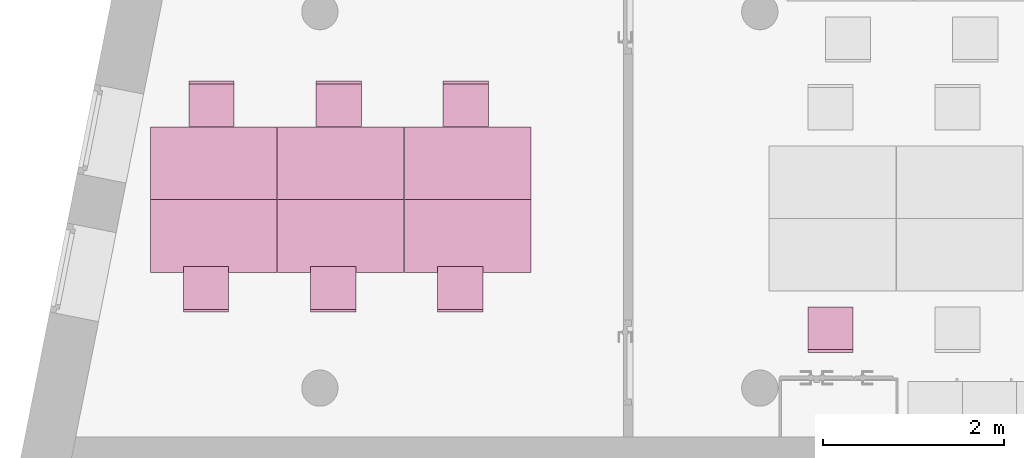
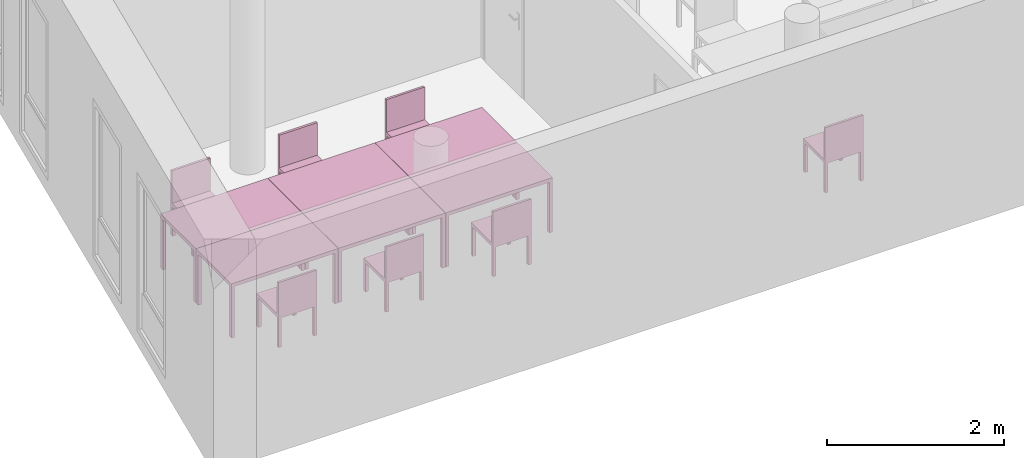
"""IFC4 building model written with IfcOpenShell, lengths in metres."""

from ifc_helpers import new_model, entity, si_unit, converted_unit, derived_unit, frame, origin, place, context, subcontext, project, spatial, faceted_brep, element, save


model = new_model("IFC4")

# Units and contexts
model_context = context("Model", 3, precision=1e-05, world=origin())
body_context = subcontext(model_context, "Body", "Model", "MODEL_VIEW")
ifc_project = project(units=[si_unit("LENGTHUNIT", "METRE"), si_unit("AREAUNIT", "SQUARE_METRE"), si_unit("VOLUMEUNIT", "CUBIC_METRE"), si_unit("MASSUNIT", "GRAM", prefix="KILO"), converted_unit("PLANEANGLEUNIT", "DEGREE", entity("IfcPlaneAngleMeasure", 0.0174532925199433), si_unit("PLANEANGLEUNIT", "RADIAN"), dimensions=[0, 0, 0, 0, 0, 0, 0]), derived_unit("THERMALTRANSMITTANCEUNIT", [(si_unit("POWERUNIT", "WATT"), 1), (si_unit("THERMODYNAMICTEMPERATUREUNIT", "KELVIN"), -1), (si_unit("LENGTHUNIT", "METRE"), -2)]), derived_unit("VOLUMETRICFLOWRATEUNIT", [(si_unit("LENGTHUNIT", "METRE"), 3), (converted_unit("TIMEUNIT", "hour", entity("IfcTimeMeasure", 3600.0), si_unit("TIMEUNIT", "SECOND"), dimensions=[0, 0, 1, 0, 0, 0, 0]), -1), (si_unit("LENGTHUNIT", "METRE"), -1)])], contexts=[model_context])

# Building, storeys
building_placement = place(None, origin())
building = spatial("IfcBuilding", under=ifc_project, at=building_placement, Name="HABITATGE PLURIFAMILIAR", CompositionType="ELEMENT")
storey_1_placement = place(building_placement, frame((0.0, 0.0, 18.29)))
storey_1 = spatial("IfcBuildingStorey", under=building, at=storey_1_placement, Name="PLANTA CINQUENA", CompositionType="ELEMENT", Elevation=18.29)
storey_2_placement = place(storey_1_placement, frame((0.0, 0.0, 15.28)))
storey_2 = spatial("IfcBuildingStorey", under=storey_1, at=storey_2_placement, Name="NOU", CompositionType="PARTIAL")

# Furniture
furniture_1_placement = place(storey_2_placement, frame((406.36586566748, 14.0425643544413, -15.2746385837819)))
element("IfcFurniture", 1, at=furniture_1_placement, inside=storey_2, Name="Cadira d'Oficina_P5", context=body_context, shape_type="Brep", body=[
    faceted_brep([(0.0, 0.500000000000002, 0.4), (0.0, 0.0, 0.4), (0.5, 0.0, 0.4), (0.5, 0.499999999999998, 0.4), (0.0, 0.0, 0.45), (0.0, 0.500000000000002, 0.45), (0.5, 0.499999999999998, 0.45), (0.5, 0.0, 0.45)], [[[0, 1, 2, 3]], [[4, 5, 6, 7]], [[1, 0, 5, 4]], [[2, 1, 4, 7]], [[3, 2, 7, 6]], [[0, 3, 6, 5]]], orient=[[False], [False], [False], [False], [False], [False]]),
    faceted_brep([(0.5, 0.04, 0.0), (0.46, 0.04, 0.0), (0.46, 0.0, 0.0), (0.5, 0.0, 0.0), (0.46, 0.04, 0.4), (0.5, 0.04, 0.4), (0.5, 0.0, 0.4), (0.46, 0.0, 0.4)], [[[0, 1, 2, 3]], [[4, 5, 6, 7]], [[1, 0, 5, 4]], [[2, 1, 4, 7]], [[3, 2, 7, 6]], [[0, 3, 6, 5]]], orient=[[False], [False], [False], [False], [False], [False]]),
    faceted_brep([(0.5, 0.499999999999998, 0.0), (0.46, 0.5, 0.0), (0.46, 0.46, 0.0), (0.5, 0.459999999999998, 0.0), (0.46, 0.5, 0.4), (0.5, 0.499999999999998, 0.4), (0.5, 0.459999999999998, 0.4), (0.46, 0.46, 0.4)], [[[0, 1, 2, 3]], [[4, 5, 6, 7]], [[1, 0, 5, 4]], [[2, 1, 4, 7]], [[3, 2, 7, 6]], [[0, 3, 6, 5]]], orient=[[False], [False], [False], [False], [False], [False]]),
    faceted_brep([(0.04, 0.04, 0.0), (0.0, 0.0400000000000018, 0.0), (0.0, 0.0, 0.0), (0.04, 0.0, 0.0), (0.0, 0.0400000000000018, 0.4), (0.04, 0.04, 0.4), (0.04, 0.0, 0.4), (0.0, 0.0, 0.4)], [[[0, 1, 2, 3]], [[4, 5, 6, 7]], [[1, 0, 5, 4]], [[2, 1, 4, 7]], [[3, 2, 7, 6]], [[0, 3, 6, 5]]], orient=[[False], [False], [False], [False], [False], [False]]),
    faceted_brep([(0.04, 0.5, 0.0), (0.0, 0.500000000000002, 0.0), (0.0, 0.460000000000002, 0.0), (0.04, 0.46, 0.0), (0.0, 0.500000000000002, 0.4), (0.04, 0.5, 0.4), (0.04, 0.46, 0.4), (0.0, 0.460000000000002, 0.4)], [[[0, 1, 2, 3]], [[4, 5, 6, 7]], [[1, 0, 5, 4]], [[2, 1, 4, 7]], [[3, 2, 7, 6]], [[0, 3, 6, 5]]], orient=[[False], [False], [False], [False], [False], [False]]),
    faceted_brep([(0.5, 0.03, 0.45), (0.0, 0.0300000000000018, 0.45), (0.0, 0.0, 0.45), (0.5, 0.0, 0.45), (0.0, 0.0300000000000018, 0.9), (0.5, 0.03, 0.9), (0.5, 0.0, 0.9), (0.0, 0.0, 0.9)], [[[0, 1, 2, 3]], [[4, 5, 6, 7]], [[1, 0, 5, 4]], [[2, 1, 4, 7]], [[3, 2, 7, 6]], [[0, 3, 6, 5]]], orient=[[False], [False], [False], [False], [False], [False]]),
])
furniture_2_placement = place(storey_2_placement, frame((400.518458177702, 15.7268221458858, -15.28)))
element("IfcFurniture", 2, at=furniture_2_placement, inside=storey_2, Name="Taula 140X80_P5", context=body_context, shape_type="Brep", body=[
    faceted_brep([(0.04375, 0.05, 0.0), (0.0, 0.05, 0.0), (0.0, 0.0, 0.0), (0.04375, 0.0, 0.0), (0.04375, 0.0, 0.7), (0.0, 0.0, 0.7), (0.0, 0.05, 0.7), (0.04375, 0.05, 0.7)], [[[0, 1, 2, 3]], [[4, 5, 6, 7]], [[3, 4, 7, 0]], [[2, 5, 4, 3]], [[1, 6, 5, 2]], [[0, 7, 6, 1]]], orient=[[False], [False], [False], [False], [False], [False]]),
    faceted_brep([(0.04375, 0.800069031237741, 0.0), (0.0, 0.800069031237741, 0.0), (0.0, 0.750069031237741, 0.0), (0.04375, 0.750069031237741, 0.0), (0.04375, 0.750069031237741, 0.7), (0.0, 0.750069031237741, 0.7), (0.0, 0.800069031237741, 0.7), (0.04375, 0.800069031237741, 0.7)], [[[0, 1, 2, 3]], [[4, 5, 6, 7]], [[3, 4, 7, 0]], [[2, 5, 4, 3]], [[1, 6, 5, 2]], [[0, 7, 6, 1]]], orient=[[False], [False], [False], [False], [False], [False]]),
    faceted_brep([(1.39732768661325, 0.800069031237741, 0.7), (0.0, 0.800069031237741, 0.7), (0.0, 0.0, 0.7), (1.39732768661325, 0.0, 0.7), (1.39732768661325, 0.0, 0.75), (0.0, 0.0, 0.75), (0.0, 0.800069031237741, 0.75), (1.39732768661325, 0.800069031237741, 0.75)], [[[0, 1, 2, 3]], [[4, 5, 6, 7]], [[3, 4, 7, 0]], [[2, 5, 4, 3]], [[1, 6, 5, 2]], [[0, 7, 6, 1]]], orient=[[False], [False], [False], [False], [False], [False]]),
    faceted_brep([(1.39732768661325, 0.05, 0.0), (1.35357768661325, 0.05, 0.0), (1.35357768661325, 0.0, 0.0), (1.39732768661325, 0.0, 0.0), (1.39732768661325, 0.0, 0.7), (1.35357768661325, 0.0, 0.7), (1.35357768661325, 0.05, 0.7), (1.39732768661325, 0.05, 0.7)], [[[0, 1, 2, 3]], [[4, 5, 6, 7]], [[3, 4, 7, 0]], [[2, 5, 4, 3]], [[1, 6, 5, 2]], [[0, 7, 6, 1]]], orient=[[False], [False], [False], [False], [False], [False]]),
    faceted_brep([(1.39732768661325, 0.800069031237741, 0.0), (1.35357768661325, 0.800069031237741, 0.0), (1.35357768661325, 0.750069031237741, 0.0), (1.39732768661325, 0.750069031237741, 0.0), (1.39732768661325, 0.750069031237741, 0.7), (1.35357768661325, 0.750069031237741, 0.7), (1.35357768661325, 0.800069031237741, 0.7), (1.39732768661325, 0.800069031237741, 0.7)], [[[0, 1, 2, 3]], [[4, 5, 6, 7]], [[3, 4, 7, 0]], [[2, 5, 4, 3]], [[1, 6, 5, 2]], [[0, 7, 6, 1]]], orient=[[False], [False], [False], [False], [False], [False]]),
])
furniture_3_placement = place(storey_2_placement, frame((399.117279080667, 15.7268221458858, -15.28)))
element("IfcFurniture", 3, at=furniture_3_placement, inside=storey_2, Name="Taula 140X80_P5", context=body_context, shape_type="Brep", body=[
    faceted_brep([(0.04375, 0.05, 0.0), (0.0, 0.05, 0.0), (0.0, 0.0, 0.0), (0.04375, 0.0, 0.0), (0.04375, 0.0, 0.7), (0.0, 0.0, 0.7), (0.0, 0.05, 0.7), (0.04375, 0.05, 0.7)], [[[0, 1, 2, 3]], [[4, 5, 6, 7]], [[3, 4, 7, 0]], [[2, 5, 4, 3]], [[1, 6, 5, 2]], [[0, 7, 6, 1]]], orient=[[False], [False], [False], [False], [False], [False]]),
    faceted_brep([(0.04375, 0.800069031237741, 0.0), (0.0, 0.800069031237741, 0.0), (0.0, 0.750069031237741, 0.0), (0.04375, 0.750069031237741, 0.0), (0.04375, 0.750069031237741, 0.7), (0.0, 0.750069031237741, 0.7), (0.0, 0.800069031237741, 0.7), (0.04375, 0.800069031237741, 0.7)], [[[0, 1, 2, 3]], [[4, 5, 6, 7]], [[3, 4, 7, 0]], [[2, 5, 4, 3]], [[1, 6, 5, 2]], [[0, 7, 6, 1]]], orient=[[False], [False], [False], [False], [False], [False]]),
    faceted_brep([(1.39732768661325, 0.800069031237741, 0.7), (0.0, 0.800069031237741, 0.7), (0.0, 0.0, 0.7), (1.39732768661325, 0.0, 0.7), (1.39732768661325, 0.0, 0.75), (0.0, 0.0, 0.75), (0.0, 0.800069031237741, 0.75), (1.39732768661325, 0.800069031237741, 0.75)], [[[0, 1, 2, 3]], [[4, 5, 6, 7]], [[3, 4, 7, 0]], [[2, 5, 4, 3]], [[1, 6, 5, 2]], [[0, 7, 6, 1]]], orient=[[False], [False], [False], [False], [False], [False]]),
    faceted_brep([(1.39732768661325, 0.05, 0.0), (1.35357768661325, 0.05, 0.0), (1.35357768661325, 0.0, 0.0), (1.39732768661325, 0.0, 0.0), (1.39732768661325, 0.0, 0.7), (1.35357768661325, 0.0, 0.7), (1.35357768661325, 0.05, 0.7), (1.39732768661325, 0.05, 0.7)], [[[0, 1, 2, 3]], [[4, 5, 6, 7]], [[3, 4, 7, 0]], [[2, 5, 4, 3]], [[1, 6, 5, 2]], [[0, 7, 6, 1]]], orient=[[False], [False], [False], [False], [False], [False]]),
    faceted_brep([(1.39732768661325, 0.800069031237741, 0.0), (1.35357768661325, 0.800069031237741, 0.0), (1.35357768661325, 0.750069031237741, 0.0), (1.39732768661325, 0.750069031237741, 0.0), (1.39732768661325, 0.750069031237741, 0.7), (1.35357768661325, 0.750069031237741, 0.7), (1.35357768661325, 0.800069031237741, 0.7), (1.39732768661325, 0.800069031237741, 0.7)], [[[0, 1, 2, 3]], [[4, 5, 6, 7]], [[3, 4, 7, 0]], [[2, 5, 4, 3]], [[1, 6, 5, 2]], [[0, 7, 6, 1]]], orient=[[False], [False], [False], [False], [False], [False]]),
])
furniture_4_placement = place(storey_2_placement, frame((400.518458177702, 14.9267531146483, -15.28)))
element("IfcFurniture", 4, at=furniture_4_placement, inside=storey_2, Name="Taula 140X80_P5", context=body_context, shape_type="Brep", body=[
    faceted_brep([(0.04375, 0.750069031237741, 0.0), (0.04375, 0.800069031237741, 0.0), (0.0, 0.800069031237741, 0.0), (0.0, 0.750069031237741, 0.0), (0.04375, 0.800069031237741, 0.7), (0.04375, 0.750069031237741, 0.7), (0.0, 0.750069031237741, 0.7), (0.0, 0.800069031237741, 0.7)], [[[0, 1, 2, 3]], [[4, 5, 6, 7]], [[1, 0, 5, 4]], [[2, 1, 4, 7]], [[3, 2, 7, 6]], [[0, 3, 6, 5]]], orient=[[False], [False], [False], [False], [False], [False]]),
    faceted_brep([(0.04375, 0.0, 0.0), (0.04375, 0.05, 0.0), (0.0, 0.05, 0.0), (0.0, 0.0, 0.0), (0.04375, 0.05, 0.7), (0.04375, 0.0, 0.7), (0.0, 0.0, 0.7), (0.0, 0.05, 0.7)], [[[0, 1, 2, 3]], [[4, 5, 6, 7]], [[1, 0, 5, 4]], [[2, 1, 4, 7]], [[3, 2, 7, 6]], [[0, 3, 6, 5]]], orient=[[False], [False], [False], [False], [False], [False]]),
    faceted_brep([(1.39732768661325, 0.0, 0.7), (1.39732768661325, 0.800069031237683, 0.7), (0.0, 0.800069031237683, 0.7), (0.0, 0.0, 0.7), (1.39732768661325, 0.800069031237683, 0.75), (1.39732768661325, 0.0, 0.75), (0.0, 0.0, 0.75), (0.0, 0.800069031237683, 0.75)], [[[0, 1, 2, 3]], [[4, 5, 6, 7]], [[1, 0, 5, 4]], [[2, 1, 4, 7]], [[3, 2, 7, 6]], [[0, 3, 6, 5]]], orient=[[False], [False], [False], [False], [False], [False]]),
    faceted_brep([(1.39732768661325, 0.750069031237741, 0.0), (1.39732768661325, 0.800069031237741, 0.0), (1.35357768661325, 0.800069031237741, 0.0), (1.35357768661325, 0.750069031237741, 0.0), (1.39732768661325, 0.800069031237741, 0.7), (1.39732768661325, 0.750069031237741, 0.7), (1.35357768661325, 0.750069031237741, 0.7), (1.35357768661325, 0.800069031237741, 0.7)], [[[0, 1, 2, 3]], [[4, 5, 6, 7]], [[1, 0, 5, 4]], [[2, 1, 4, 7]], [[3, 2, 7, 6]], [[0, 3, 6, 5]]], orient=[[False], [False], [False], [False], [False], [False]]),
    faceted_brep([(1.39732768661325, 0.0, 0.0), (1.39732768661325, 0.05, 0.0), (1.35357768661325, 0.05, 0.0), (1.35357768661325, 0.0, 0.0), (1.39732768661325, 0.05, 0.7), (1.39732768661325, 0.0, 0.7), (1.35357768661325, 0.0, 0.7), (1.35357768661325, 0.05, 0.7)], [[[0, 1, 2, 3]], [[4, 5, 6, 7]], [[1, 0, 5, 4]], [[2, 1, 4, 7]], [[3, 2, 7, 6]], [[0, 3, 6, 5]]], orient=[[False], [False], [False], [False], [False], [False]]),
])
furniture_5_placement = place(storey_2_placement, frame((399.117279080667, 14.9267531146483, -15.28)))
element("IfcFurniture", 5, at=furniture_5_placement, inside=storey_2, Name="Taula 140X80_P5", context=body_context, shape_type="Brep", body=[
    faceted_brep([(0.04375, 0.750069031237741, 0.0), (0.04375, 0.800069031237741, 0.0), (0.0, 0.800069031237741, 0.0), (0.0, 0.750069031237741, 0.0), (0.04375, 0.800069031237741, 0.7), (0.04375, 0.750069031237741, 0.7), (0.0, 0.750069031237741, 0.7), (0.0, 0.800069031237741, 0.7)], [[[0, 1, 2, 3]], [[4, 5, 6, 7]], [[1, 0, 5, 4]], [[2, 1, 4, 7]], [[3, 2, 7, 6]], [[0, 3, 6, 5]]], orient=[[False], [False], [False], [False], [False], [False]]),
    faceted_brep([(0.04375, 0.0, 0.0), (0.04375, 0.05, 0.0), (0.0, 0.05, 0.0), (0.0, 0.0, 0.0), (0.04375, 0.05, 0.7), (0.04375, 0.0, 0.7), (0.0, 0.0, 0.7), (0.0, 0.05, 0.7)], [[[0, 1, 2, 3]], [[4, 5, 6, 7]], [[1, 0, 5, 4]], [[2, 1, 4, 7]], [[3, 2, 7, 6]], [[0, 3, 6, 5]]], orient=[[False], [False], [False], [False], [False], [False]]),
    faceted_brep([(1.39732768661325, 0.0, 0.7), (1.39732768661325, 0.800069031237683, 0.7), (0.0, 0.800069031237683, 0.7), (0.0, 0.0, 0.7), (1.39732768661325, 0.800069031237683, 0.75), (1.39732768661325, 0.0, 0.75), (0.0, 0.0, 0.75), (0.0, 0.800069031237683, 0.75)], [[[0, 1, 2, 3]], [[4, 5, 6, 7]], [[1, 0, 5, 4]], [[2, 1, 4, 7]], [[3, 2, 7, 6]], [[0, 3, 6, 5]]], orient=[[False], [False], [False], [False], [False], [False]]),
    faceted_brep([(1.39732768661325, 0.750069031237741, 0.0), (1.39732768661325, 0.800069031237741, 0.0), (1.35357768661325, 0.800069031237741, 0.0), (1.35357768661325, 0.750069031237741, 0.0), (1.39732768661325, 0.800069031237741, 0.7), (1.39732768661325, 0.750069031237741, 0.7), (1.35357768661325, 0.750069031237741, 0.7), (1.35357768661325, 0.800069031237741, 0.7)], [[[0, 1, 2, 3]], [[4, 5, 6, 7]], [[1, 0, 5, 4]], [[2, 1, 4, 7]], [[3, 2, 7, 6]], [[0, 3, 6, 5]]], orient=[[False], [False], [False], [False], [False], [False]]),
    faceted_brep([(1.39732768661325, 0.0, 0.0), (1.39732768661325, 0.05, 0.0), (1.35357768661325, 0.05, 0.0), (1.35357768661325, 0.0, 0.0), (1.39732768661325, 0.05, 0.7), (1.39732768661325, 0.0, 0.7), (1.35357768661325, 0.0, 0.7), (1.35357768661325, 0.05, 0.7)], [[[0, 1, 2, 3]], [[4, 5, 6, 7]], [[1, 0, 5, 4]], [[2, 1, 4, 7]], [[3, 2, 7, 6]], [[0, 3, 6, 5]]], orient=[[False], [False], [False], [False], [False], [False]]),
])
furniture_6_placement = place(storey_2_placement, frame((400.883027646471, 14.4885941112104, -15.2746385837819)))
element("IfcFurniture", 6, at=furniture_6_placement, inside=storey_2, Name="Cadira d'Oficina_P5", context=body_context, shape_type="Brep", body=[
    faceted_brep([(0.0, 0.500000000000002, 0.4), (0.0, 0.0, 0.4), (0.5, 0.0, 0.4), (0.5, 0.499999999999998, 0.4), (0.0, 0.0, 0.45), (0.0, 0.500000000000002, 0.45), (0.5, 0.499999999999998, 0.45), (0.5, 0.0, 0.45)], [[[0, 1, 2, 3]], [[4, 5, 6, 7]], [[1, 0, 5, 4]], [[2, 1, 4, 7]], [[3, 2, 7, 6]], [[0, 3, 6, 5]]], orient=[[False], [False], [False], [False], [False], [False]]),
    faceted_brep([(0.5, 0.04, 0.0), (0.46, 0.04, 0.0), (0.46, 0.0, 0.0), (0.5, 0.0, 0.0), (0.46, 0.04, 0.4), (0.5, 0.04, 0.4), (0.5, 0.0, 0.4), (0.46, 0.0, 0.4)], [[[0, 1, 2, 3]], [[4, 5, 6, 7]], [[1, 0, 5, 4]], [[2, 1, 4, 7]], [[3, 2, 7, 6]], [[0, 3, 6, 5]]], orient=[[False], [False], [False], [False], [False], [False]]),
    faceted_brep([(0.5, 0.499999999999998, 0.0), (0.46, 0.5, 0.0), (0.46, 0.46, 0.0), (0.5, 0.459999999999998, 0.0), (0.46, 0.5, 0.4), (0.5, 0.499999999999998, 0.4), (0.5, 0.459999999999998, 0.4), (0.46, 0.46, 0.4)], [[[0, 1, 2, 3]], [[4, 5, 6, 7]], [[1, 0, 5, 4]], [[2, 1, 4, 7]], [[3, 2, 7, 6]], [[0, 3, 6, 5]]], orient=[[False], [False], [False], [False], [False], [False]]),
    faceted_brep([(0.04, 0.04, 0.0), (0.0, 0.0400000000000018, 0.0), (0.0, 0.0, 0.0), (0.04, 0.0, 0.0), (0.0, 0.0400000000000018, 0.4), (0.04, 0.04, 0.4), (0.04, 0.0, 0.4), (0.0, 0.0, 0.4)], [[[0, 1, 2, 3]], [[4, 5, 6, 7]], [[1, 0, 5, 4]], [[2, 1, 4, 7]], [[3, 2, 7, 6]], [[0, 3, 6, 5]]], orient=[[False], [False], [False], [False], [False], [False]]),
    faceted_brep([(0.04, 0.5, 0.0), (0.0, 0.500000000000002, 0.0), (0.0, 0.460000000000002, 0.0), (0.04, 0.46, 0.0), (0.0, 0.500000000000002, 0.4), (0.04, 0.5, 0.4), (0.04, 0.46, 0.4), (0.0, 0.460000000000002, 0.4)], [[[0, 1, 2, 3]], [[4, 5, 6, 7]], [[1, 0, 5, 4]], [[2, 1, 4, 7]], [[3, 2, 7, 6]], [[0, 3, 6, 5]]], orient=[[False], [False], [False], [False], [False], [False]]),
    faceted_brep([(0.5, 0.03, 0.45), (0.0, 0.0300000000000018, 0.45), (0.0, 0.0, 0.45), (0.5, 0.0, 0.45), (0.0, 0.0300000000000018, 0.9), (0.5, 0.03, 0.9), (0.5, 0.0, 0.9), (0.0, 0.0, 0.9)], [[[0, 1, 2, 3]], [[4, 5, 6, 7]], [[1, 0, 5, 4]], [[2, 1, 4, 7]], [[3, 2, 7, 6]], [[0, 3, 6, 5]]], orient=[[False], [False], [False], [False], [False], [False]]),
])
furniture_7_placement = place(storey_2_placement, frame((399.481848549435, 14.4885941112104, -15.2746385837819)))
element("IfcFurniture", 7, at=furniture_7_placement, inside=storey_2, Name="Cadira d'Oficina_P5", context=body_context, shape_type="Brep", body=[
    faceted_brep([(0.0, 0.500000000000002, 0.4), (0.0, 0.0, 0.4), (0.5, 0.0, 0.4), (0.5, 0.499999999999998, 0.4), (0.0, 0.0, 0.45), (0.0, 0.500000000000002, 0.45), (0.5, 0.499999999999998, 0.45), (0.5, 0.0, 0.45)], [[[0, 1, 2, 3]], [[4, 5, 6, 7]], [[1, 0, 5, 4]], [[2, 1, 4, 7]], [[3, 2, 7, 6]], [[0, 3, 6, 5]]], orient=[[False], [False], [False], [False], [False], [False]]),
    faceted_brep([(0.5, 0.04, 0.0), (0.46, 0.04, 0.0), (0.46, 0.0, 0.0), (0.5, 0.0, 0.0), (0.46, 0.04, 0.4), (0.5, 0.04, 0.4), (0.5, 0.0, 0.4), (0.46, 0.0, 0.4)], [[[0, 1, 2, 3]], [[4, 5, 6, 7]], [[1, 0, 5, 4]], [[2, 1, 4, 7]], [[3, 2, 7, 6]], [[0, 3, 6, 5]]], orient=[[False], [False], [False], [False], [False], [False]]),
    faceted_brep([(0.5, 0.499999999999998, 0.0), (0.46, 0.5, 0.0), (0.46, 0.46, 0.0), (0.5, 0.459999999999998, 0.0), (0.46, 0.5, 0.4), (0.5, 0.499999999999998, 0.4), (0.5, 0.459999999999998, 0.4), (0.46, 0.46, 0.4)], [[[0, 1, 2, 3]], [[4, 5, 6, 7]], [[1, 0, 5, 4]], [[2, 1, 4, 7]], [[3, 2, 7, 6]], [[0, 3, 6, 5]]], orient=[[False], [False], [False], [False], [False], [False]]),
    faceted_brep([(0.04, 0.04, 0.0), (0.0, 0.0400000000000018, 0.0), (0.0, 0.0, 0.0), (0.04, 0.0, 0.0), (0.0, 0.0400000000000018, 0.4), (0.04, 0.04, 0.4), (0.04, 0.0, 0.4), (0.0, 0.0, 0.4)], [[[0, 1, 2, 3]], [[4, 5, 6, 7]], [[1, 0, 5, 4]], [[2, 1, 4, 7]], [[3, 2, 7, 6]], [[0, 3, 6, 5]]], orient=[[False], [False], [False], [False], [False], [False]]),
    faceted_brep([(0.04, 0.5, 0.0), (0.0, 0.500000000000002, 0.0), (0.0, 0.460000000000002, 0.0), (0.04, 0.46, 0.0), (0.0, 0.500000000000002, 0.4), (0.04, 0.5, 0.4), (0.04, 0.46, 0.4), (0.0, 0.460000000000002, 0.4)], [[[0, 1, 2, 3]], [[4, 5, 6, 7]], [[1, 0, 5, 4]], [[2, 1, 4, 7]], [[3, 2, 7, 6]], [[0, 3, 6, 5]]], orient=[[False], [False], [False], [False], [False], [False]]),
    faceted_brep([(0.5, 0.03, 0.45), (0.0, 0.0300000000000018, 0.45), (0.0, 0.0, 0.45), (0.5, 0.0, 0.45), (0.0, 0.0300000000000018, 0.9), (0.5, 0.03, 0.9), (0.5, 0.0, 0.9), (0.0, 0.0, 0.9)], [[[0, 1, 2, 3]], [[4, 5, 6, 7]], [[1, 0, 5, 4]], [[2, 1, 4, 7]], [[3, 2, 7, 6]], [[0, 3, 6, 5]]], orient=[[False], [False], [False], [False], [False], [False]]),
])
furniture_8_placement = place(storey_2_placement, frame((400.943487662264, 16.5335764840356, -15.2746385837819)))
element("IfcFurniture", 8, at=furniture_8_placement, inside=storey_2, Name="Cadira d'Oficina_P5", context=body_context, shape_type="Brep", body=[
    faceted_brep([(0.0, 0.0, 0.4), (0.5, 0.0, 0.4), (0.5, 0.500000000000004, 0.4), (0.0, 0.5, 0.4), (0.0, 0.5, 0.45), (0.5, 0.500000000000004, 0.45), (0.5, 0.0, 0.45), (0.0, 0.0, 0.45)], [[[0, 1, 2, 3]], [[4, 5, 6, 7]], [[3, 4, 7, 0]], [[2, 5, 4, 3]], [[1, 6, 5, 2]], [[0, 7, 6, 1]]], orient=[[False], [False], [False], [False], [False], [False]]),
    faceted_brep([(0.5, 0.460000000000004, 0.0), (0.5, 0.500000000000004, 0.0), (0.46, 0.5, 0.0), (0.46, 0.46, 0.0), (0.46, 0.46, 0.4), (0.46, 0.5, 0.4), (0.5, 0.500000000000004, 0.4), (0.5, 0.460000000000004, 0.4)], [[[0, 1, 2, 3]], [[4, 5, 6, 7]], [[3, 4, 7, 0]], [[2, 5, 4, 3]], [[1, 6, 5, 2]], [[0, 7, 6, 1]]], orient=[[False], [False], [False], [False], [False], [False]]),
    faceted_brep([(0.5, 0.0, 0.0), (0.5, 0.0400000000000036, 0.0), (0.46, 0.04, 0.0), (0.46, 0.0, 0.0), (0.46, 0.0, 0.4), (0.46, 0.04, 0.4), (0.5, 0.0400000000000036, 0.4), (0.5, 0.0, 0.4)], [[[0, 1, 2, 3]], [[4, 5, 6, 7]], [[3, 4, 7, 0]], [[2, 5, 4, 3]], [[1, 6, 5, 2]], [[0, 7, 6, 1]]], orient=[[False], [False], [False], [False], [False], [False]]),
    faceted_brep([(0.04, 0.46, 0.0), (0.04, 0.5, 0.0), (0.0, 0.5, 0.0), (0.0, 0.46, 0.0), (0.0, 0.46, 0.4), (0.0, 0.5, 0.4), (0.04, 0.5, 0.4), (0.04, 0.46, 0.4)], [[[0, 1, 2, 3]], [[4, 5, 6, 7]], [[3, 4, 7, 0]], [[2, 5, 4, 3]], [[1, 6, 5, 2]], [[0, 7, 6, 1]]], orient=[[False], [False], [False], [False], [False], [False]]),
    faceted_brep([(0.04, 0.0, 0.0), (0.04, 0.04, 0.0), (0.0, 0.04, 0.0), (0.0, 0.0, 0.0), (0.0, 0.0, 0.4), (0.0, 0.04, 0.4), (0.04, 0.04, 0.4), (0.04, 0.0, 0.4)], [[[0, 1, 2, 3]], [[4, 5, 6, 7]], [[3, 4, 7, 0]], [[2, 5, 4, 3]], [[1, 6, 5, 2]], [[0, 7, 6, 1]]], orient=[[False], [False], [False], [False], [False], [False]]),
    faceted_brep([(0.5, 0.470000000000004, 0.45), (0.5, 0.500000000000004, 0.45), (0.0, 0.5, 0.45), (0.0, 0.47, 0.45), (0.0, 0.47, 0.9), (0.0, 0.5, 0.9), (0.5, 0.500000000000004, 0.9), (0.5, 0.470000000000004, 0.9)], [[[0, 1, 2, 3]], [[4, 5, 6, 7]], [[3, 4, 7, 0]], [[2, 5, 4, 3]], [[1, 6, 5, 2]], [[0, 7, 6, 1]]], orient=[[False], [False], [False], [False], [False], [False]]),
])
furniture_9_placement = place(storey_2_placement, frame((399.542308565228, 16.5335764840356, -15.2746385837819)))
element("IfcFurniture", 9, at=furniture_9_placement, inside=storey_2, Name="Cadira d'Oficina_P5", context=body_context, shape_type="Brep", body=[
    faceted_brep([(0.0, 0.0, 0.4), (0.5, 0.0, 0.4), (0.5, 0.500000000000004, 0.4), (0.0, 0.5, 0.4), (0.0, 0.5, 0.45), (0.5, 0.500000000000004, 0.45), (0.5, 0.0, 0.45), (0.0, 0.0, 0.45)], [[[0, 1, 2, 3]], [[4, 5, 6, 7]], [[3, 4, 7, 0]], [[2, 5, 4, 3]], [[1, 6, 5, 2]], [[0, 7, 6, 1]]], orient=[[False], [False], [False], [False], [False], [False]]),
    faceted_brep([(0.5, 0.460000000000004, 0.0), (0.5, 0.500000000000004, 0.0), (0.46, 0.5, 0.0), (0.46, 0.46, 0.0), (0.46, 0.46, 0.4), (0.46, 0.5, 0.4), (0.5, 0.500000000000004, 0.4), (0.5, 0.460000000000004, 0.4)], [[[0, 1, 2, 3]], [[4, 5, 6, 7]], [[3, 4, 7, 0]], [[2, 5, 4, 3]], [[1, 6, 5, 2]], [[0, 7, 6, 1]]], orient=[[False], [False], [False], [False], [False], [False]]),
    faceted_brep([(0.5, 0.0, 0.0), (0.5, 0.0400000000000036, 0.0), (0.46, 0.04, 0.0), (0.46, 0.0, 0.0), (0.46, 0.0, 0.4), (0.46, 0.04, 0.4), (0.5, 0.0400000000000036, 0.4), (0.5, 0.0, 0.4)], [[[0, 1, 2, 3]], [[4, 5, 6, 7]], [[3, 4, 7, 0]], [[2, 5, 4, 3]], [[1, 6, 5, 2]], [[0, 7, 6, 1]]], orient=[[False], [False], [False], [False], [False], [False]]),
    faceted_brep([(0.04, 0.46, 0.0), (0.04, 0.5, 0.0), (0.0, 0.5, 0.0), (0.0, 0.46, 0.0), (0.0, 0.46, 0.4), (0.0, 0.5, 0.4), (0.04, 0.5, 0.4), (0.04, 0.46, 0.4)], [[[0, 1, 2, 3]], [[4, 5, 6, 7]], [[3, 4, 7, 0]], [[2, 5, 4, 3]], [[1, 6, 5, 2]], [[0, 7, 6, 1]]], orient=[[False], [False], [False], [False], [False], [False]]),
    faceted_brep([(0.04, 0.0, 0.0), (0.04, 0.04, 0.0), (0.0, 0.04, 0.0), (0.0, 0.0, 0.0), (0.0, 0.0, 0.4), (0.0, 0.04, 0.4), (0.04, 0.04, 0.4), (0.04, 0.0, 0.4)], [[[0, 1, 2, 3]], [[4, 5, 6, 7]], [[3, 4, 7, 0]], [[2, 5, 4, 3]], [[1, 6, 5, 2]], [[0, 7, 6, 1]]], orient=[[False], [False], [False], [False], [False], [False]]),
    faceted_brep([(0.5, 0.470000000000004, 0.45), (0.5, 0.500000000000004, 0.45), (0.0, 0.5, 0.45), (0.0, 0.47, 0.45), (0.0, 0.47, 0.9), (0.0, 0.5, 0.9), (0.5, 0.500000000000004, 0.9), (0.5, 0.470000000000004, 0.9)], [[[0, 1, 2, 3]], [[4, 5, 6, 7]], [[3, 4, 7, 0]], [[2, 5, 4, 3]], [[1, 6, 5, 2]], [[0, 7, 6, 1]]], orient=[[False], [False], [False], [False], [False], [False]]),
])
furniture_10_placement = place(storey_2_placement, frame((401.919637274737, 15.7268221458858, -15.28)))
element("IfcFurniture", 10, at=furniture_10_placement, inside=storey_2, Name="Taula 140X80_P5", context=body_context, shape_type="Brep", body=[
    faceted_brep([(0.04375, 0.05, 0.0), (0.0, 0.05, 0.0), (0.0, 0.0, 0.0), (0.04375, 0.0, 0.0), (0.04375, 0.0, 0.7), (0.0, 0.0, 0.7), (0.0, 0.05, 0.7), (0.04375, 0.05, 0.7)], [[[0, 1, 2, 3]], [[4, 5, 6, 7]], [[3, 4, 7, 0]], [[2, 5, 4, 3]], [[1, 6, 5, 2]], [[0, 7, 6, 1]]], orient=[[False], [False], [False], [False], [False], [False]]),
    faceted_brep([(0.04375, 0.800069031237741, 0.0), (0.0, 0.800069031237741, 0.0), (0.0, 0.750069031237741, 0.0), (0.04375, 0.750069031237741, 0.0), (0.04375, 0.750069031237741, 0.7), (0.0, 0.750069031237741, 0.7), (0.0, 0.800069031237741, 0.7), (0.04375, 0.800069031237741, 0.7)], [[[0, 1, 2, 3]], [[4, 5, 6, 7]], [[3, 4, 7, 0]], [[2, 5, 4, 3]], [[1, 6, 5, 2]], [[0, 7, 6, 1]]], orient=[[False], [False], [False], [False], [False], [False]]),
    faceted_brep([(1.39732768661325, 0.800069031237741, 0.7), (0.0, 0.800069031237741, 0.7), (0.0, 0.0, 0.7), (1.39732768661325, 0.0, 0.7), (1.39732768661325, 0.0, 0.75), (0.0, 0.0, 0.75), (0.0, 0.800069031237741, 0.75), (1.39732768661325, 0.800069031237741, 0.75)], [[[0, 1, 2, 3]], [[4, 5, 6, 7]], [[3, 4, 7, 0]], [[2, 5, 4, 3]], [[1, 6, 5, 2]], [[0, 7, 6, 1]]], orient=[[False], [False], [False], [False], [False], [False]]),
    faceted_brep([(1.39732768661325, 0.05, 0.0), (1.35357768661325, 0.05, 0.0), (1.35357768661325, 0.0, 0.0), (1.39732768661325, 0.0, 0.0), (1.39732768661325, 0.0, 0.7), (1.35357768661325, 0.0, 0.7), (1.35357768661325, 0.05, 0.7), (1.39732768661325, 0.05, 0.7)], [[[0, 1, 2, 3]], [[4, 5, 6, 7]], [[3, 4, 7, 0]], [[2, 5, 4, 3]], [[1, 6, 5, 2]], [[0, 7, 6, 1]]], orient=[[False], [False], [False], [False], [False], [False]]),
    faceted_brep([(1.39732768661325, 0.800069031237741, 0.0), (1.35357768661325, 0.800069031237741, 0.0), (1.35357768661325, 0.750069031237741, 0.0), (1.39732768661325, 0.750069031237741, 0.0), (1.39732768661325, 0.750069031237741, 0.7), (1.35357768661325, 0.750069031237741, 0.7), (1.35357768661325, 0.800069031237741, 0.7), (1.39732768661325, 0.800069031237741, 0.7)], [[[0, 1, 2, 3]], [[4, 5, 6, 7]], [[3, 4, 7, 0]], [[2, 5, 4, 3]], [[1, 6, 5, 2]], [[0, 7, 6, 1]]], orient=[[False], [False], [False], [False], [False], [False]]),
])
furniture_11_placement = place(storey_2_placement, frame((401.919637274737, 14.9267531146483, -15.28)))
element("IfcFurniture", 11, at=furniture_11_placement, inside=storey_2, Name="Taula 140X80_P5", context=body_context, shape_type="Brep", body=[
    faceted_brep([(0.04375, 0.750069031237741, 0.0), (0.04375, 0.800069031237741, 0.0), (0.0, 0.800069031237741, 0.0), (0.0, 0.750069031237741, 0.0), (0.04375, 0.800069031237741, 0.7), (0.04375, 0.750069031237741, 0.7), (0.0, 0.750069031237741, 0.7), (0.0, 0.800069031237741, 0.7)], [[[0, 1, 2, 3]], [[4, 5, 6, 7]], [[1, 0, 5, 4]], [[2, 1, 4, 7]], [[3, 2, 7, 6]], [[0, 3, 6, 5]]], orient=[[False], [False], [False], [False], [False], [False]]),
    faceted_brep([(0.04375, 0.0, 0.0), (0.04375, 0.05, 0.0), (0.0, 0.05, 0.0), (0.0, 0.0, 0.0), (0.04375, 0.05, 0.7), (0.04375, 0.0, 0.7), (0.0, 0.0, 0.7), (0.0, 0.05, 0.7)], [[[0, 1, 2, 3]], [[4, 5, 6, 7]], [[1, 0, 5, 4]], [[2, 1, 4, 7]], [[3, 2, 7, 6]], [[0, 3, 6, 5]]], orient=[[False], [False], [False], [False], [False], [False]]),
    faceted_brep([(1.39732768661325, 0.0, 0.7), (1.39732768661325, 0.800069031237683, 0.7), (0.0, 0.800069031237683, 0.7), (0.0, 0.0, 0.7), (1.39732768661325, 0.800069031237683, 0.75), (1.39732768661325, 0.0, 0.75), (0.0, 0.0, 0.75), (0.0, 0.800069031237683, 0.75)], [[[0, 1, 2, 3]], [[4, 5, 6, 7]], [[1, 0, 5, 4]], [[2, 1, 4, 7]], [[3, 2, 7, 6]], [[0, 3, 6, 5]]], orient=[[False], [False], [False], [False], [False], [False]]),
    faceted_brep([(1.39732768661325, 0.750069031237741, 0.0), (1.39732768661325, 0.800069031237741, 0.0), (1.35357768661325, 0.800069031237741, 0.0), (1.35357768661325, 0.750069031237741, 0.0), (1.39732768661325, 0.800069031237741, 0.7), (1.39732768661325, 0.750069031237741, 0.7), (1.35357768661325, 0.750069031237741, 0.7), (1.35357768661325, 0.800069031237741, 0.7)], [[[0, 1, 2, 3]], [[4, 5, 6, 7]], [[1, 0, 5, 4]], [[2, 1, 4, 7]], [[3, 2, 7, 6]], [[0, 3, 6, 5]]], orient=[[False], [False], [False], [False], [False], [False]]),
    faceted_brep([(1.39732768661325, 0.0, 0.0), (1.39732768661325, 0.05, 0.0), (1.35357768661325, 0.05, 0.0), (1.35357768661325, 0.0, 0.0), (1.39732768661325, 0.05, 0.7), (1.39732768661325, 0.0, 0.7), (1.35357768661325, 0.0, 0.7), (1.35357768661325, 0.05, 0.7)], [[[0, 1, 2, 3]], [[4, 5, 6, 7]], [[1, 0, 5, 4]], [[2, 1, 4, 7]], [[3, 2, 7, 6]], [[0, 3, 6, 5]]], orient=[[False], [False], [False], [False], [False], [False]]),
])
furniture_12_placement = place(storey_2_placement, frame((402.284206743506, 14.4885941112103, -15.2746385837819)))
element("IfcFurniture", 12, at=furniture_12_placement, inside=storey_2, Name="Cadira d'Oficina_P5", context=body_context, shape_type="Brep", body=[
    faceted_brep([(0.0, 0.500000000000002, 0.4), (0.0, 0.0, 0.4), (0.5, 0.0, 0.4), (0.5, 0.499999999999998, 0.4), (0.0, 0.0, 0.45), (0.0, 0.500000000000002, 0.45), (0.5, 0.499999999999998, 0.45), (0.5, 0.0, 0.45)], [[[0, 1, 2, 3]], [[4, 5, 6, 7]], [[1, 0, 5, 4]], [[2, 1, 4, 7]], [[3, 2, 7, 6]], [[0, 3, 6, 5]]], orient=[[False], [False], [False], [False], [False], [False]]),
    faceted_brep([(0.5, 0.04, 0.0), (0.46, 0.04, 0.0), (0.46, 0.0, 0.0), (0.5, 0.0, 0.0), (0.46, 0.04, 0.4), (0.5, 0.04, 0.4), (0.5, 0.0, 0.4), (0.46, 0.0, 0.4)], [[[0, 1, 2, 3]], [[4, 5, 6, 7]], [[1, 0, 5, 4]], [[2, 1, 4, 7]], [[3, 2, 7, 6]], [[0, 3, 6, 5]]], orient=[[False], [False], [False], [False], [False], [False]]),
    faceted_brep([(0.5, 0.499999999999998, 0.0), (0.46, 0.5, 0.0), (0.46, 0.46, 0.0), (0.5, 0.459999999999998, 0.0), (0.46, 0.5, 0.4), (0.5, 0.499999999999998, 0.4), (0.5, 0.459999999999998, 0.4), (0.46, 0.46, 0.4)], [[[0, 1, 2, 3]], [[4, 5, 6, 7]], [[1, 0, 5, 4]], [[2, 1, 4, 7]], [[3, 2, 7, 6]], [[0, 3, 6, 5]]], orient=[[False], [False], [False], [False], [False], [False]]),
    faceted_brep([(0.04, 0.04, 0.0), (0.0, 0.0400000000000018, 0.0), (0.0, 0.0, 0.0), (0.04, 0.0, 0.0), (0.0, 0.0400000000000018, 0.4), (0.04, 0.04, 0.4), (0.04, 0.0, 0.4), (0.0, 0.0, 0.4)], [[[0, 1, 2, 3]], [[4, 5, 6, 7]], [[1, 0, 5, 4]], [[2, 1, 4, 7]], [[3, 2, 7, 6]], [[0, 3, 6, 5]]], orient=[[False], [False], [False], [False], [False], [False]]),
    faceted_brep([(0.04, 0.5, 0.0), (0.0, 0.500000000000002, 0.0), (0.0, 0.460000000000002, 0.0), (0.04, 0.46, 0.0), (0.0, 0.500000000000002, 0.4), (0.04, 0.5, 0.4), (0.04, 0.46, 0.4), (0.0, 0.460000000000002, 0.4)], [[[0, 1, 2, 3]], [[4, 5, 6, 7]], [[1, 0, 5, 4]], [[2, 1, 4, 7]], [[3, 2, 7, 6]], [[0, 3, 6, 5]]], orient=[[False], [False], [False], [False], [False], [False]]),
    faceted_brep([(0.5, 0.03, 0.45), (0.0, 0.0300000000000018, 0.45), (0.0, 0.0, 0.45), (0.5, 0.0, 0.45), (0.0, 0.0300000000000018, 0.9), (0.5, 0.03, 0.9), (0.5, 0.0, 0.9), (0.0, 0.0, 0.9)], [[[0, 1, 2, 3]], [[4, 5, 6, 7]], [[1, 0, 5, 4]], [[2, 1, 4, 7]], [[3, 2, 7, 6]], [[0, 3, 6, 5]]], orient=[[False], [False], [False], [False], [False], [False]]),
])
furniture_13_placement = place(storey_2_placement, frame((402.344666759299, 16.5335764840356, -15.2746385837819)))
element("IfcFurniture", 13, at=furniture_13_placement, inside=storey_2, Name="Cadira d'Oficina_P5", context=body_context, shape_type="Brep", body=[
    faceted_brep([(0.0, 0.0, 0.4), (0.5, 0.0, 0.4), (0.5, 0.500000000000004, 0.4), (0.0, 0.5, 0.4), (0.0, 0.5, 0.45), (0.5, 0.500000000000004, 0.45), (0.5, 0.0, 0.45), (0.0, 0.0, 0.45)], [[[0, 1, 2, 3]], [[4, 5, 6, 7]], [[3, 4, 7, 0]], [[2, 5, 4, 3]], [[1, 6, 5, 2]], [[0, 7, 6, 1]]], orient=[[False], [False], [False], [False], [False], [False]]),
    faceted_brep([(0.5, 0.460000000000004, 0.0), (0.5, 0.500000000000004, 0.0), (0.46, 0.5, 0.0), (0.46, 0.46, 0.0), (0.46, 0.46, 0.4), (0.46, 0.5, 0.4), (0.5, 0.500000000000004, 0.4), (0.5, 0.460000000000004, 0.4)], [[[0, 1, 2, 3]], [[4, 5, 6, 7]], [[3, 4, 7, 0]], [[2, 5, 4, 3]], [[1, 6, 5, 2]], [[0, 7, 6, 1]]], orient=[[False], [False], [False], [False], [False], [False]]),
    faceted_brep([(0.5, 0.0, 0.0), (0.5, 0.0400000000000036, 0.0), (0.46, 0.04, 0.0), (0.46, 0.0, 0.0), (0.46, 0.0, 0.4), (0.46, 0.04, 0.4), (0.5, 0.0400000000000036, 0.4), (0.5, 0.0, 0.4)], [[[0, 1, 2, 3]], [[4, 5, 6, 7]], [[3, 4, 7, 0]], [[2, 5, 4, 3]], [[1, 6, 5, 2]], [[0, 7, 6, 1]]], orient=[[False], [False], [False], [False], [False], [False]]),
    faceted_brep([(0.04, 0.46, 0.0), (0.04, 0.5, 0.0), (0.0, 0.5, 0.0), (0.0, 0.46, 0.0), (0.0, 0.46, 0.4), (0.0, 0.5, 0.4), (0.04, 0.5, 0.4), (0.04, 0.46, 0.4)], [[[0, 1, 2, 3]], [[4, 5, 6, 7]], [[3, 4, 7, 0]], [[2, 5, 4, 3]], [[1, 6, 5, 2]], [[0, 7, 6, 1]]], orient=[[False], [False], [False], [False], [False], [False]]),
    faceted_brep([(0.04, 0.0, 0.0), (0.04, 0.04, 0.0), (0.0, 0.04, 0.0), (0.0, 0.0, 0.0), (0.0, 0.0, 0.4), (0.0, 0.04, 0.4), (0.04, 0.04, 0.4), (0.04, 0.0, 0.4)], [[[0, 1, 2, 3]], [[4, 5, 6, 7]], [[3, 4, 7, 0]], [[2, 5, 4, 3]], [[1, 6, 5, 2]], [[0, 7, 6, 1]]], orient=[[False], [False], [False], [False], [False], [False]]),
    faceted_brep([(0.5, 0.470000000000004, 0.45), (0.5, 0.500000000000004, 0.45), (0.0, 0.5, 0.45), (0.0, 0.47, 0.45), (0.0, 0.47, 0.9), (0.0, 0.5, 0.9), (0.5, 0.500000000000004, 0.9), (0.5, 0.470000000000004, 0.9)], [[[0, 1, 2, 3]], [[4, 5, 6, 7]], [[3, 4, 7, 0]], [[2, 5, 4, 3]], [[1, 6, 5, 2]], [[0, 7, 6, 1]]], orient=[[False], [False], [False], [False], [False], [False]]),
])

save(model, "model.ifc")
